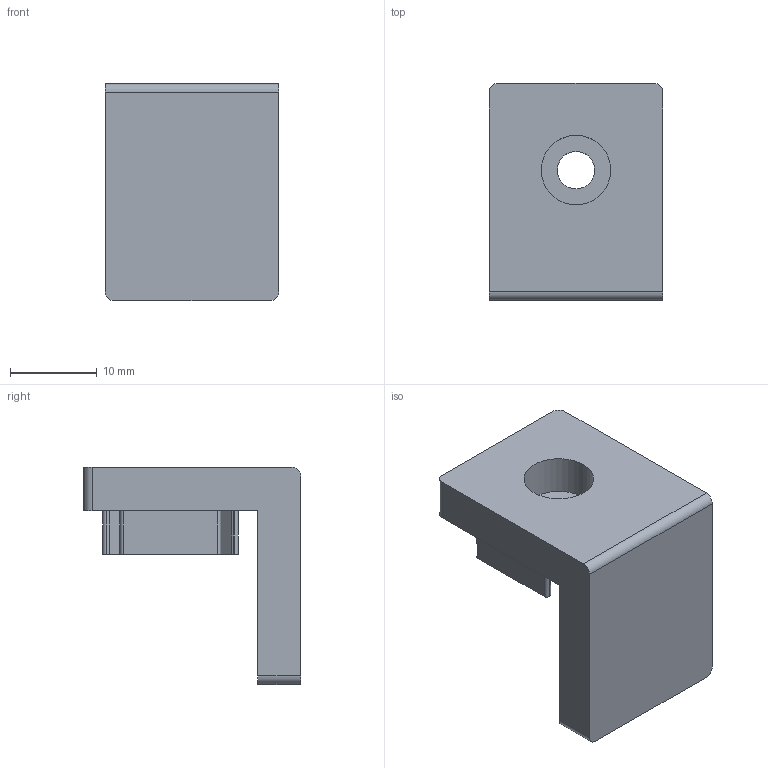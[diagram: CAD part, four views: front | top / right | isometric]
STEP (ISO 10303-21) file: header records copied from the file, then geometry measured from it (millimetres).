
FILE_DESCRIPTION(/* description */ ('','CAx-IF Rec.Pracs.---Representation and Presentation of Product Manufacturing Information (PMI)---4.0---2014-10-13'),/* implementation_level */ '2;1');
FILE_NAME(/* name */ 'tappo_04.stp',/* time_stamp */ '2026-02-28T20:14:12+01:00',/* author */ ('R5800u'),/* organization */ (''),/* preprocessor_version */ 'ST-DEVELOPER v20',/* originating_system */ 'Autodesk Inventor 2025',/* authorisation */ '');
FILE_SCHEMA (('AP242_MANAGED_MODEL_BASED_3D_ENGINEERING_MIM_LF { 1 0 10303 442 1 1 4 }'));
Length unit declared in the file: millimetre
Products named in the file (1): tappo_04
Bounding box: 20 x 25 x 25 mm (x, y, z)
Volume: 4957.4 mm3; surface area: 3167.9 mm2
Topology: 2 solids, 2 shells, 69 faces, 183 edges, 122 vertices
Faces by surface type: plane 38, cylinder 31
Full cylindrical faces by diameter (mm): 4.3 x1, 8 x1
Entity records: 2427 total; most frequent: CARTESIAN_POINT 443, DIRECTION 411, ORIENTED_EDGE 366, EDGE_CURVE 183, AXIS2_PLACEMENT_3D 145, VERTEX_POINT 122, LINE 121, VECTOR 121
